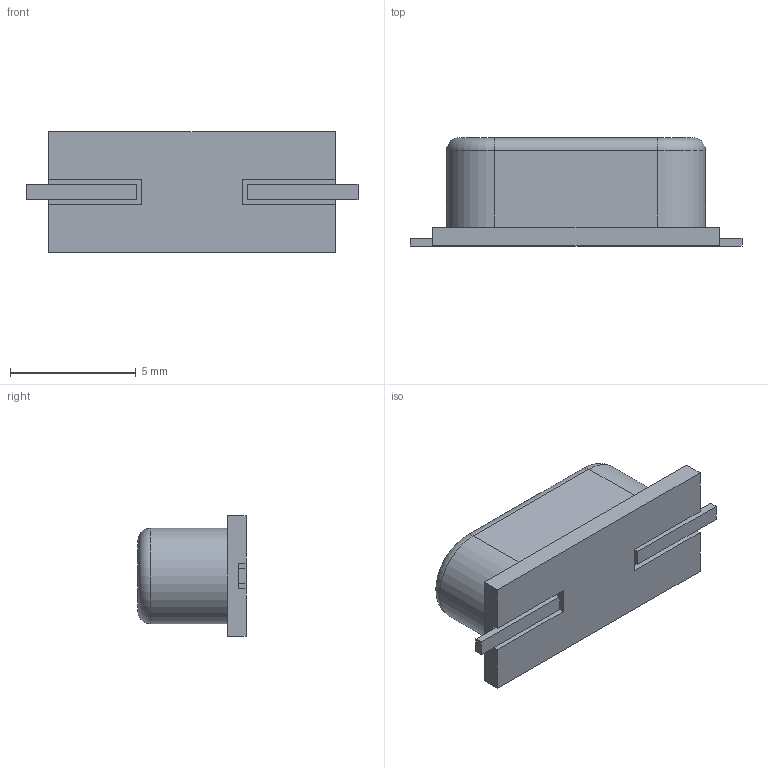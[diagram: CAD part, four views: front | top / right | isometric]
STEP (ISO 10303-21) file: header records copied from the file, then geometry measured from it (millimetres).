
FILE_DESCRIPTION (( 'STEP AP214' ), '1' );
FILE_NAME ('HC-49SM.STEP', '2013-04-02T12:11:30', ( 'Tester2' ), ( '' ), 'SwSTEP 2.0', 'SolidWorks 2012', '' );
FILE_SCHEMA (( 'AUTOMOTIVE_DESIGN' ));
Length unit declared in the file: millimetre
Products named in the file (1): HC-49SM
Bounding box: 13.2 x 4.3 x 4.8 mm (x, y, z)
Volume: 167.1 mm3; surface area: 229.6 mm2
Topology: 1 solids, 1 shells, 35 faces, 88 edges, 56 vertices
Faces by surface type: plane 29, cylinder 4, torus 2
Entity records: 1216 total; most frequent: CARTESIAN_POINT 180, ORIENTED_EDGE 176, DIRECTION 170, EDGE_CURVE 88, VECTOR 78, LINE 78, VERTEX_POINT 56, AXIS2_PLACEMENT_3D 46
